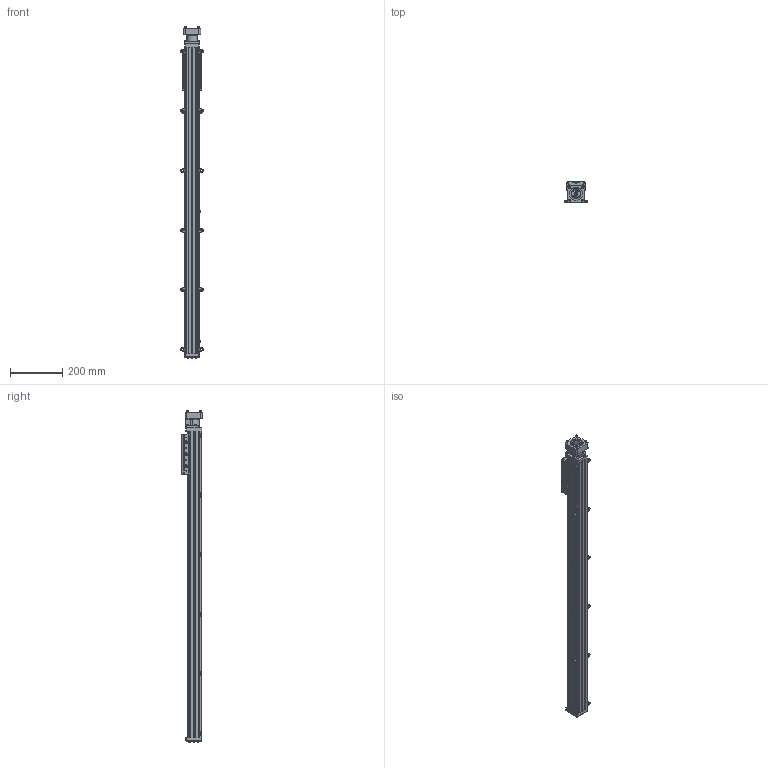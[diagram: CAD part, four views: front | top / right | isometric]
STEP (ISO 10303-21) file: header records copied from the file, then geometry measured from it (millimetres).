
FILE_DESCRIPTION (( 'STEP AP203' ), '1' );
FILE_NAME ('MXE32S_BNM10_SM1000.000_MXE-492316-1.step', '2025-07-08T16:48:01', ( '' ), ( '' ), 'SwSTEP 2.0', 'SolidWorks 2024', '' );
FILE_SCHEMA (( 'CONFIG_CONTROL_DESIGN' ));
Length unit declared in the file: inch
Products named in the file (8): 83329005_MXE32S_BNM10_SM1000.000_MXE-492316-1; tempJoin3_45109049_MXE32S_BNM10_SM1000.000_MXE-492316-1; 81329802_MXE32S_BNM10_SM1000.000_MXE-492316-1; Base_MXE32S_BNM10_SM1000.000_MXE-492316-1; 83329033_MXE32S_BNM10_SM1000.000_MXE-492316-1; tempJoin3_45109053_MXE32S_BNM10_SM1000.000_MXE-492316-1; MXE32S_BNM10_SM1000.000_MXE-492316-1; 81009800_MXE32S_BNM10_SM1000.000_MXE-492316-1
Assembly tree (20 placements, depth 2):
  MXE32S_BNM10_SM1000.000_MXE-492316-1
    83329005_MXE32S_BNM10_SM1000.000_MXE-492316-1
    81329802_MXE32S_BNM10_SM1000.000_MXE-492316-1  x12
    81009800_MXE32S_BNM10_SM1000.000_MXE-492316-1  x3
    tempJoin3_45109053_MXE32S_BNM10_SM1000.000_MXE-492316-1
    tempJoin3_45109049_MXE32S_BNM10_SM1000.000_MXE-492316-1
    83329033_MXE32S_BNM10_SM1000.000_MXE-492316-1
    Base_MXE32S_BNM10_SM1000.000_MXE-492316-1
Bounding box: 87.32 x 80.14 x 1274.5 mm (x, y, z)
Volume: 2910198.4 mm3; surface area: 709698.9 mm2
Topology: 27 solids, 49 shells, 2768 faces, 6496 edges, 3876 vertices
Faces by surface type: plane 1252, cylinder 943, sphere 182, torus 160, bspline 117, cone 114
Full cylindrical faces by diameter (mm): 1 x6, 1.575 x4, 2.25 x6, 2.5 x6, 2.921 x4, 3.299 x4, 3.3 x13, 3.956 x2, 3.969 x2, 4 x21, 4.039 x4, 4.2 x22, 4.572 x1, 4.724 x3, 4.826 x4, 5 x18, 5.5 x8, 5.69 x4, 6.35 x5, 6.4 x4, 6.8 x10, 7 x13, 7.14 x12, 7.772 x2, 7.874 x4, 7.884 x2, 7.9 x4, 7.938 x1, 7.976 x1, 8.001 x1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
Entity records: 51316 total; most frequent: CARTESIAN_POINT 10072, DIRECTION 8527, ORIENTED_EDGE 7536, EDGE_CURVE 3768, AXIS2_PLACEMENT_3D 3103, VERTEX_POINT 2592, EDGE_LOOP 2418, VECTOR 2321
